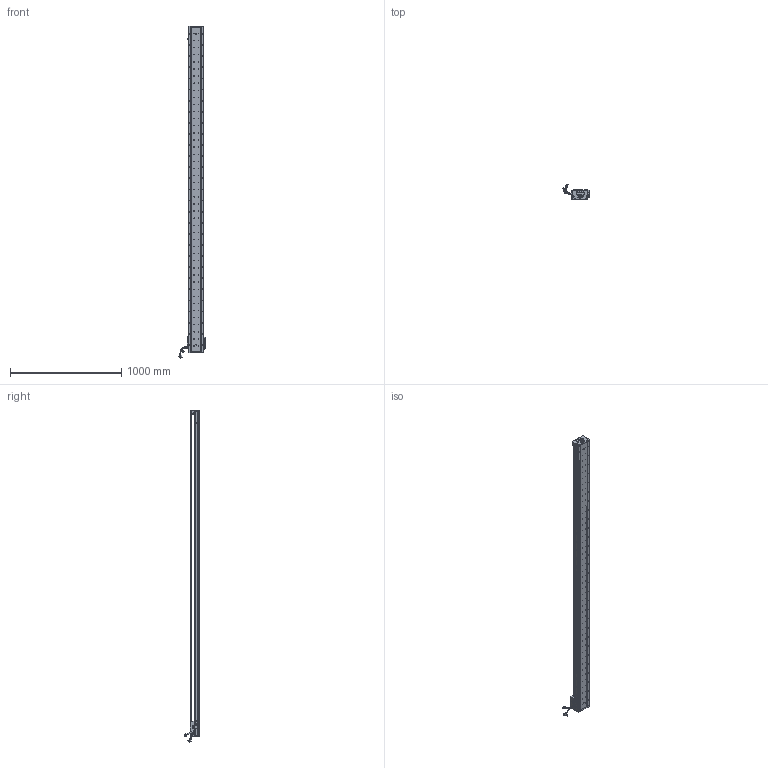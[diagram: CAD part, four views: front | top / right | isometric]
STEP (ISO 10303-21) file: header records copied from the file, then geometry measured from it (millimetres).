
FILE_DESCRIPTION (( 'STEP AP203' ), '1' );
FILE_NAME ('Z1-RY140D-1-L500-B-K.SLDASM_2750.step', '2021-05-17T07:36:28', ( '盈信电脑' ), ( '东莞市道滘镇水果街19号' ), 'SwSTEP 2.0', 'SolidWorks 2016', '' );
FILE_SCHEMA (( 'CONFIG_CONTROL_DESIGN' ));
Length unit declared in the file: millimetre
Products named in the file (36): Z1-RY140圉猾敕臏賑輸(21遴); 080黍杅芛假蚾釱21遴; 140蚥薯蝶輸; SEAL-Part-1; SCREW-M1.6-3; SCREW-M1.6-2; SCREW-M1.6-1; SHIELDPLATE; Z1-RY140-L500詩湍100mm遵_2750; 榋妏寠巭燃_暯_M2_2; Z-RY140詩湍狟揤裔; SCALE; SCALE-Part-1; HOLDER0; SCREW-M1.7; SCREW-M1.6; COVER; LABEL-Part-1; 140-Z-臏賑輸盄裔(21遴); SCALE-Part-2; HARNESS-Part-2; HARNESS; Z1-RY140D-1-L500-B-K.SLDASM_2750; COVER-Part-1; 覜茼ん672; PSLH080_PSLF2; SEAL; LABEL; Z-140詩湍傷裔啣; Z-RY140感应器672光电感应片; PBU_SHEET; HARNESS-Part-1; Z-RY140詩湍奻揤裔; SCREW-M1.7-1; Z1-RY140-L500直线电机模组底座_2750; 140雄赽晤鎢ん堤盄
Assembly tree (41 placements, depth 4):
  Z1-RY140D-1-L500-B-K.SLDASM_2750
    Z1-RY140-L500直线电机模组底座_2750
    Z-RY140感应器672光电感应片
    Z1-RY140圉猾敕臏賑輸(21遴)
    覜茼ん672  x3
    Z1-RY140-L500詩湍100mm遵_2750
    PSLH080_PSLF2
      SCALE
        SCALE-Part-1
        SCALE-Part-2
      HARNESS
        HARNESS-Part-1
        HARNESS-Part-2
      LABEL
        LABEL-Part-1
      COVER
        COVER-Part-1
      SEAL
        SEAL-Part-1
      榋妏寠巭燃_暯_M2_2
      SHIELDPLATE
      SCREW-M1.7
      SCREW-M1.7-1
      PBU_SHEET
      SCREW-M1.6
      SCREW-M1.6-1
      SCREW-M1.6-2
      SCREW-M1.6-3
      HOLDER0
    080黍杅芛假蚾釱21遴
    140-Z-臏賑輸盄裔(21遴)
    Z-140詩湍傷裔啣  x2
    Z-RY140詩湍狟揤裔  x2
    Z-RY140詩湍奻揤裔  x2
    140蚥薯蝶輸  x2
    140雄赽晤鎢ん堤盄
Bounding box: 239.79 x 143.88 x 2990.87 mm (x, y, z)
Volume: 9068939.1 mm3; surface area: 2403298.5 mm2
Topology: 36 solids, 36 shells, 4250 faces, 11632 edges, 7377 vertices
Faces by surface type: cylinder 2334, plane 1400, cone 394, torus 69, bspline 53
Entity records: 136448 total; most frequent: CARTESIAN_POINT 39375, ORIENTED_EDGE 20168, DIRECTION 18392, EDGE_CURVE 10084, AXIS2_PLACEMENT_3D 6826, VERTEX_POINT 6545, VECTOR 4740, LINE 4740
